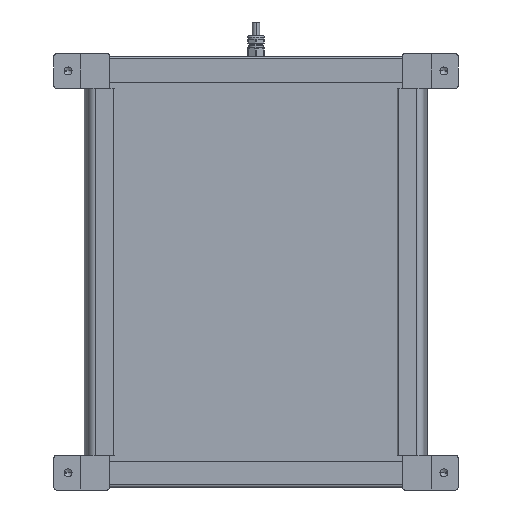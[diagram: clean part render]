
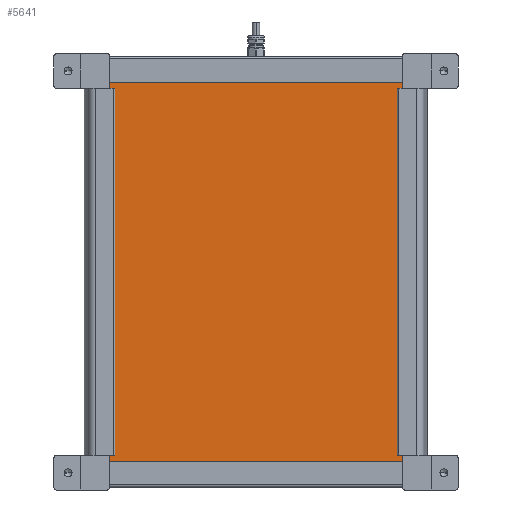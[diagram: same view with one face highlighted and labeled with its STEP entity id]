
A CAD part, front view. The second image highlights one B-rep face of the part: STEP entity #5641.
In plain terms, the highlighted planar face has unit normal (0, -1, 0).
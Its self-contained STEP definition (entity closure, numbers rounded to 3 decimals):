
#9 = DIRECTION ( 'NONE',  ( -1., 0., 0. ) ) ;
#159 = CARTESIAN_POINT ( 'NONE',  ( -124., -24., 99. ) ) ;
#204 = VECTOR ( 'NONE', #243, 1000. ) ;
#243 = DIRECTION ( 'NONE',  ( 0., 0., -1. ) ) ;
#406 = EDGE_CURVE ( 'NONE', #2938, #8753, #6516, .T. ) ;
#626 = CARTESIAN_POINT ( 'NONE',  ( 128., -24., -99. ) ) ;
#762 = VERTEX_POINT ( 'NONE', #626 ) ;
#770 = VECTOR ( 'NONE', #2971, 1000. ) ;
#913 = EDGE_CURVE ( 'NONE', #2556, #6866, #2152, .T. ) ;
#942 = DIRECTION ( 'NONE',  ( 0., 0., 1. ) ) ;
#1004 = EDGE_CURVE ( 'NONE', #9012, #1652, #1095, .T. ) ;
#1008 = LINE ( 'NONE', #8267, #6570 ) ;
#1095 = LINE ( 'NONE', #6792, #7135 ) ;
#1127 = PLANE ( 'NONE',  #1858 ) ;
#1197 = CARTESIAN_POINT ( 'NONE',  ( 124., -24., -95.373 ) ) ;
#1253 = LINE ( 'NONE', #8418, #8771 ) ;
#1288 = EDGE_CURVE ( 'NONE', #3273, #762, #6359, .T. ) ;
#1431 = CARTESIAN_POINT ( 'NONE',  ( -124., -24., -95.373 ) ) ;
#1501 = ORIENTED_EDGE ( 'NONE', *, *, #5444, .T. ) ;
#1548 = CARTESIAN_POINT ( 'NONE',  ( -128., -24., 99. ) ) ;
#1639 = LINE ( 'NONE', #4523, #5437 ) ;
#1652 = VERTEX_POINT ( 'NONE', #4956 ) ;
#1792 = EDGE_CURVE ( 'NONE', #4813, #3273, #5817, .T. ) ;
#1858 = AXIS2_PLACEMENT_3D ( 'NONE', #4588, #6071, #942 ) ;
#1893 = EDGE_LOOP ( 'NONE', ( #2930, #8805, #6588, #1501, #2368, #2187, #4390, #4448, #3176, #4251, #2382, #4261 ) ) ;
#1905 = DIRECTION ( 'NONE',  ( 1., 0., 0. ) ) ;
#1971 = VERTEX_POINT ( 'NONE', #6242 ) ;
#1976 = CARTESIAN_POINT ( 'NONE',  ( -124., -24., -99. ) ) ;
#2137 = CARTESIAN_POINT ( 'NONE',  ( -128., -24., 99. ) ) ;
#2152 = LINE ( 'NONE', #5031, #3782 ) ;
#2187 = ORIENTED_EDGE ( 'NONE', *, *, #913, .F. ) ;
#2368 = ORIENTED_EDGE ( 'NONE', *, *, #3907, .T. ) ;
#2382 = ORIENTED_EDGE ( 'NONE', *, *, #1792, .F. ) ;
#2556 = VERTEX_POINT ( 'NONE', #1431 ) ;
#2930 = ORIENTED_EDGE ( 'NONE', *, *, #8648, .T. ) ;
#2938 = VERTEX_POINT ( 'NONE', #1548 ) ;
#2971 = DIRECTION ( 'NONE',  ( 1., 0., 0. ) ) ;
#3124 = EDGE_CURVE ( 'NONE', #9012, #2556, #5846, .T. ) ;
#3176 = ORIENTED_EDGE ( 'NONE', *, *, #6489, .T. ) ;
#3273 = VERTEX_POINT ( 'NONE', #3325 ) ;
#3325 = CARTESIAN_POINT ( 'NONE',  ( 128., -24., 99. ) ) ;
#3603 = VECTOR ( 'NONE', #8694, 1000. ) ;
#3782 = VECTOR ( 'NONE', #7930, 1000. ) ;
#3839 = FACE_OUTER_BOUND ( 'NONE', #1893, .T. ) ;
#3907 = EDGE_CURVE ( 'NONE', #5164, #6866, #1639, .T. ) ;
#4251 = ORIENTED_EDGE ( 'NONE', *, *, #1288, .F. ) ;
#4253 = DIRECTION ( 'NONE',  ( 1., 0., 0. ) ) ;
#4261 = ORIENTED_EDGE ( 'NONE', *, *, #4811, .T. ) ;
#4390 = ORIENTED_EDGE ( 'NONE', *, *, #3124, .F. ) ;
#4448 = ORIENTED_EDGE ( 'NONE', *, *, #1004, .T. ) ;
#4523 = CARTESIAN_POINT ( 'NONE',  ( -124., -24., -99. ) ) ;
#4551 = CARTESIAN_POINT ( 'NONE',  ( -128., -24., -99. ) ) ;
#4588 = CARTESIAN_POINT ( 'NONE',  ( 124., -24., 95.373 ) ) ;
#4799 = CARTESIAN_POINT ( 'NONE',  ( -124., -24., 99. ) ) ;
#4811 = EDGE_CURVE ( 'NONE', #4813, #1971, #6743, .T. ) ;
#4813 = VERTEX_POINT ( 'NONE', #9305 ) ;
#4956 = CARTESIAN_POINT ( 'NONE',  ( 124., -24., -99. ) ) ;
#5031 = CARTESIAN_POINT ( 'NONE',  ( -124., -24., 99. ) ) ;
#5082 = CARTESIAN_POINT ( 'NONE',  ( -124., -24., 95.373 ) ) ;
#5097 = CARTESIAN_POINT ( 'NONE',  ( 124., -24., 99. ) ) ;
#5164 = VERTEX_POINT ( 'NONE', #4551 ) ;
#5437 = VECTOR ( 'NONE', #4253, 1000. ) ;
#5444 = EDGE_CURVE ( 'NONE', #2938, #5164, #8619, .T. ) ;
#5474 = LINE ( 'NONE', #4799, #7611 ) ;
#5641 = ADVANCED_FACE ( 'NONE', ( #3839 ), #1127, .F. ) ;
#5817 = LINE ( 'NONE', #5097, #770 ) ;
#5846 = LINE ( 'NONE', #6509, #6978 ) ;
#6032 = EDGE_CURVE ( 'NONE', #8753, #6180, #5474, .T. ) ;
#6071 = DIRECTION ( 'NONE',  ( 0., 1., 0. ) ) ;
#6092 = VECTOR ( 'NONE', #6681, 1000. ) ;
#6180 = VERTEX_POINT ( 'NONE', #5082 ) ;
#6242 = CARTESIAN_POINT ( 'NONE',  ( 124., -24., 95.373 ) ) ;
#6359 = LINE ( 'NONE', #9240, #7392 ) ;
#6489 = EDGE_CURVE ( 'NONE', #1652, #762, #1008, .T. ) ;
#6490 = DIRECTION ( 'NONE',  ( 0., 0., -1. ) ) ;
#6509 = CARTESIAN_POINT ( 'NONE',  ( 124., -24., -95.373 ) ) ;
#6516 = LINE ( 'NONE', #159, #3603 ) ;
#6570 = VECTOR ( 'NONE', #1905, 1000. ) ;
#6588 = ORIENTED_EDGE ( 'NONE', *, *, #406, .F. ) ;
#6681 = DIRECTION ( 'NONE',  ( 0., 0., -1. ) ) ;
#6743 = LINE ( 'NONE', #7453, #204 ) ;
#6792 = CARTESIAN_POINT ( 'NONE',  ( 124., -24., 99. ) ) ;
#6866 = VERTEX_POINT ( 'NONE', #1976 ) ;
#6978 = VECTOR ( 'NONE', #9, 1000. ) ;
#7135 = VECTOR ( 'NONE', #9061, 1000. ) ;
#7392 = VECTOR ( 'NONE', #6490, 1000. ) ;
#7453 = CARTESIAN_POINT ( 'NONE',  ( 124., -24., 99. ) ) ;
#7611 = VECTOR ( 'NONE', #8279, 1000. ) ;
#7930 = DIRECTION ( 'NONE',  ( 0., 0., -1. ) ) ;
#8267 = CARTESIAN_POINT ( 'NONE',  ( 124., -24., -99. ) ) ;
#8279 = DIRECTION ( 'NONE',  ( 0., 0., -1. ) ) ;
#8418 = CARTESIAN_POINT ( 'NONE',  ( 124., -24., 95.373 ) ) ;
#8459 = DIRECTION ( 'NONE',  ( -1., 0., 0. ) ) ;
#8619 = LINE ( 'NONE', #2137, #6092 ) ;
#8648 = EDGE_CURVE ( 'NONE', #1971, #6180, #1253, .T. ) ;
#8694 = DIRECTION ( 'NONE',  ( 1., 0., 0. ) ) ;
#8753 = VERTEX_POINT ( 'NONE', #9263 ) ;
#8771 = VECTOR ( 'NONE', #8459, 1000. ) ;
#8805 = ORIENTED_EDGE ( 'NONE', *, *, #6032, .F. ) ;
#9012 = VERTEX_POINT ( 'NONE', #1197 ) ;
#9061 = DIRECTION ( 'NONE',  ( 0., 0., -1. ) ) ;
#9240 = CARTESIAN_POINT ( 'NONE',  ( 128., -24., 99. ) ) ;
#9263 = CARTESIAN_POINT ( 'NONE',  ( -124., -24., 99. ) ) ;
#9305 = CARTESIAN_POINT ( 'NONE',  ( 124., -24., 99. ) ) ;
